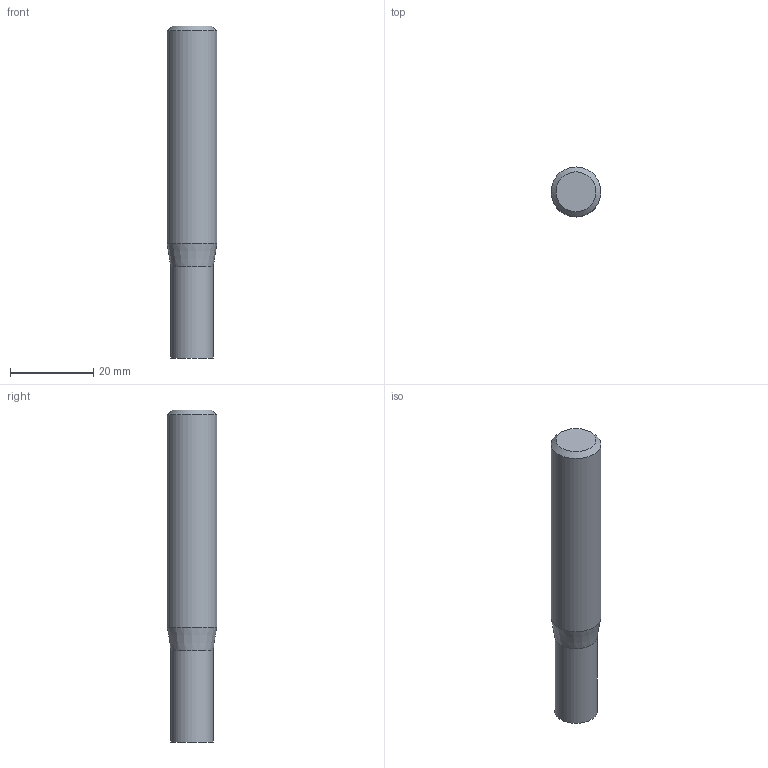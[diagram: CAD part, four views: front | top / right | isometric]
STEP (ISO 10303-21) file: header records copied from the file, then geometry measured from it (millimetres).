
FILE_DESCRIPTION((''),'2;1');
FILE_NAME('C:\Users\nsx150\AppData\Local\Temp\Mastercam 2021\98T1Q6BTT1\TEMP.step','2021-10-21T14:50:07',(''),(''),'STEP Write','Mastercam 2021 ... CNC Software, Inc.','');
FILE_SCHEMA(('AUTOMOTIVE_DESIGN'));
Length unit declared in the file: millimetre
Products named in the file (1): None
Bounding box: 12 x 12 x 80 mm (x, y, z)
Volume: 8240.4 mm3; surface area: 3207.8 mm2
Topology: 2 solids, 2 shells, 8 faces, 10 edges, 6 vertices
Faces by surface type: plane 4, cylinder 2, cone 2
Full cylindrical faces by diameter (mm): 10.2 x1, 12 x1
Entity records: 190 total; most frequent: DIRECTION 32, CARTESIAN_POINT 22, AXIS2_PLACEMENT_3D 16, ORIENTED_EDGE 12, EDGE_LOOP 12, STYLED_ITEM 11, ADVANCED_FACE 8, VERTEX_POINT 6
